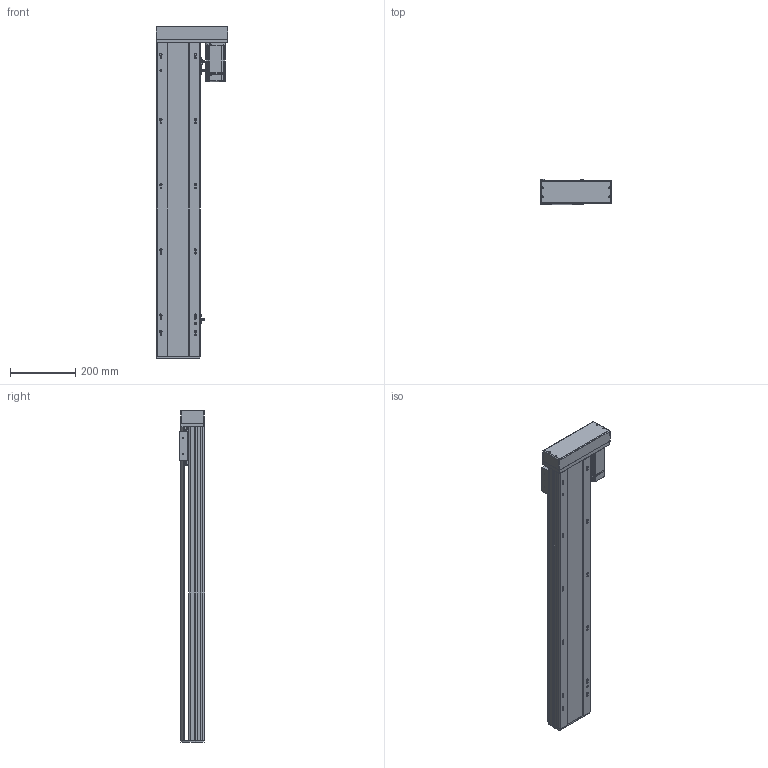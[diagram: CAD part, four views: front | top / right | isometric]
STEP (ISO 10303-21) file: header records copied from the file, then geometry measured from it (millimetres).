
FILE_DESCRIPTION (( 'STEP AP214' ), '1' );
FILE_NAME ('QTH13-800-BL-P40.STEP', '2022-05-24T08:50:15', ( '' ), ( '' ), 'SwSTEP 2.0', 'SolidWorks 2020', '' );
FILE_SCHEMA (( 'AUTOMOTIVE_DESIGN' ));
Length unit declared in the file: millimetre
Products named in the file (6): 葩璃 pm-t65-672^QTH13-BL-P40; 葩璃 QTH13-BC-005 賑釱MZ-135-03^QTH13-BL-P40_SFA16; 葩璃 400W^QTH13-BL-P40; 葩璃 QTH13-BL-002 奻裔MZ-135-02^QTH13-BL-P40; QTH13-800-BL-P40; 葩璃 QTH13-BL-001 菁釱MZ-135-01^QTH13-BL-P40
Assembly tree (7 placements, depth 2):
  QTH13-800-BL-P40
    葩璃 QTH13-BL-001 菁釱MZ-135-01^QTH13-BL-P40
    葩璃 QTH13-BL-002 奻裔MZ-135-02^QTH13-BL-P40
    葩璃 QTH13-BC-005 賑釱MZ-135-03^QTH13-BL-P40_SFA16
    葩璃 pm-t65-672^QTH13-BL-P40  x3
    葩璃 400W^QTH13-BL-P40
Bounding box: 220 x 78 x 1018.5 mm (x, y, z)
Volume: 7335897.8 mm3; surface area: 893326.1 mm2
Topology: 12 solids, 12 shells, 1293 faces, 3422 edges, 2204 vertices
Faces by surface type: plane 731, cylinder 444, cone 92, bspline 26
Entity records: 34574 total; most frequent: CARTESIAN_POINT 6513, DIRECTION 5707, ORIENTED_EDGE 5452, EDGE_CURVE 2726, AXIS2_PLACEMENT_3D 1976, VERTEX_POINT 1780, LINE 1755, VECTOR 1755
